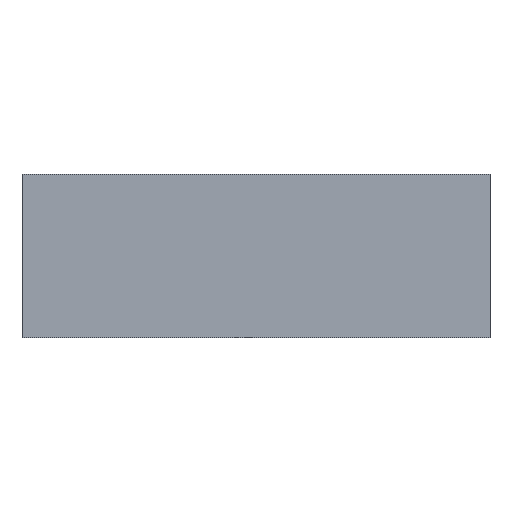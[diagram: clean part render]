
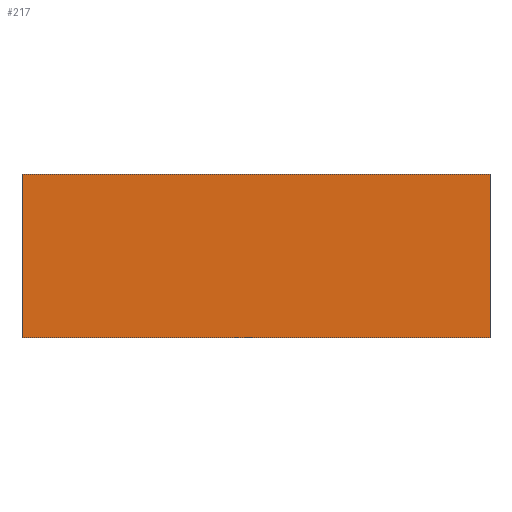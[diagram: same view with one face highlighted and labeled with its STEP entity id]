
A CAD part, front view. The second image highlights one B-rep face of the part: STEP entity #217.
In plain terms, the highlighted planar face has unit normal (0, -1, 0).
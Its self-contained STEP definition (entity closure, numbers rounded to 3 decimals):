
#39 = EDGE_CURVE('',#40,#42,#44,.T.);
#40 = VERTEX_POINT('',#41);
#41 = CARTESIAN_POINT('',(60.6,-20.5,24.376));
#42 = VERTEX_POINT('',#43);
#43 = CARTESIAN_POINT('',(60.6,-20.5,32.376));
#44 = SURFACE_CURVE('',#45,(#49,#61),.PCURVE_S1.);
#45 = LINE('',#46,#47);
#46 = CARTESIAN_POINT('',(60.6,-20.5,24.376));
#47 = VECTOR('',#48,1.);
#48 = DIRECTION('',(0.,0.,1.));
#49 = PCURVE('',#50,#55);
#50 = PLANE('',#51);
#51 = AXIS2_PLACEMENT_3D('',#52,#53,#54);
#52 = CARTESIAN_POINT('',(60.6,-20.5,24.376));
#53 = DIRECTION('',(1.,0.,0.));
#54 = DIRECTION('',(0.,0.,1.));
#55 = DEFINITIONAL_REPRESENTATION('',(#56),#60);
#56 = LINE('',#57,#58);
#57 = CARTESIAN_POINT('',(0.,0.));
#58 = VECTOR('',#59,1.);
#59 = DIRECTION('',(1.,0.));
#60 = ( GEOMETRIC_REPRESENTATION_CONTEXT(2) 
PARAMETRIC_REPRESENTATION_CONTEXT() REPRESENTATION_CONTEXT('2D SPACE',''
  ) );
#61 = PCURVE('',#62,#67);
#62 = PLANE('',#63);
#63 = AXIS2_PLACEMENT_3D('',#64,#65,#66);
#64 = CARTESIAN_POINT('',(60.6,-20.5,24.376));
#65 = DIRECTION('',(0.,1.,0.));
#66 = DIRECTION('',(0.,-0.,1.));
#67 = DEFINITIONAL_REPRESENTATION('',(#68),#72);
#68 = LINE('',#69,#70);
#69 = CARTESIAN_POINT('',(0.,0.));
#70 = VECTOR('',#71,1.);
#71 = DIRECTION('',(1.,0.));
#72 = ( GEOMETRIC_REPRESENTATION_CONTEXT(2) 
PARAMETRIC_REPRESENTATION_CONTEXT() REPRESENTATION_CONTEXT('2D SPACE',''
  ) );
#90 = PLANE('',#91);
#91 = AXIS2_PLACEMENT_3D('',#92,#93,#94);
#92 = CARTESIAN_POINT('',(60.6,-20.5,24.376));
#93 = DIRECTION('',(0.,0.,1.));
#94 = DIRECTION('',(1.,0.,-0.));
#144 = PLANE('',#145);
#145 = AXIS2_PLACEMENT_3D('',#146,#147,#148);
#146 = CARTESIAN_POINT('',(60.6,-20.5,32.376));
#147 = DIRECTION('',(0.,0.,1.));
#148 = DIRECTION('',(1.,0.,-0.));
#217 = ADVANCED_FACE('',(#218),#62,.F.);
#218 = FACE_BOUND('',#219,.F.);
#219 = EDGE_LOOP('',(#220,#243,#244,#267));
#220 = ORIENTED_EDGE('',*,*,#221,.F.);
#221 = EDGE_CURVE('',#40,#222,#224,.T.);
#222 = VERTEX_POINT('',#223);
#223 = CARTESIAN_POINT('',(63.4,-20.5,24.376));
#224 = SURFACE_CURVE('',#225,(#229,#236),.PCURVE_S1.);
#225 = LINE('',#226,#227);
#226 = CARTESIAN_POINT('',(60.6,-20.5,24.376));
#227 = VECTOR('',#228,1.);
#228 = DIRECTION('',(1.,0.,0.));
#229 = PCURVE('',#62,#230);
#230 = DEFINITIONAL_REPRESENTATION('',(#231),#235);
#231 = LINE('',#232,#233);
#232 = CARTESIAN_POINT('',(0.,0.));
#233 = VECTOR('',#234,1.);
#234 = DIRECTION('',(0.,1.));
#235 = ( GEOMETRIC_REPRESENTATION_CONTEXT(2) 
PARAMETRIC_REPRESENTATION_CONTEXT() REPRESENTATION_CONTEXT('2D SPACE',''
  ) );
#236 = PCURVE('',#90,#237);
#237 = DEFINITIONAL_REPRESENTATION('',(#238),#242);
#238 = LINE('',#239,#240);
#239 = CARTESIAN_POINT('',(0.,0.));
#240 = VECTOR('',#241,1.);
#241 = DIRECTION('',(1.,0.));
#242 = ( GEOMETRIC_REPRESENTATION_CONTEXT(2) 
PARAMETRIC_REPRESENTATION_CONTEXT() REPRESENTATION_CONTEXT('2D SPACE',''
  ) );
#243 = ORIENTED_EDGE('',*,*,#39,.T.);
#244 = ORIENTED_EDGE('',*,*,#245,.T.);
#245 = EDGE_CURVE('',#42,#246,#248,.T.);
#246 = VERTEX_POINT('',#247);
#247 = CARTESIAN_POINT('',(63.4,-20.5,32.376));
#248 = SURFACE_CURVE('',#249,(#253,#260),.PCURVE_S1.);
#249 = LINE('',#250,#251);
#250 = CARTESIAN_POINT('',(60.6,-20.5,32.376));
#251 = VECTOR('',#252,1.);
#252 = DIRECTION('',(1.,0.,0.));
#253 = PCURVE('',#62,#254);
#254 = DEFINITIONAL_REPRESENTATION('',(#255),#259);
#255 = LINE('',#256,#257);
#256 = CARTESIAN_POINT('',(8.,0.));
#257 = VECTOR('',#258,1.);
#258 = DIRECTION('',(0.,1.));
#259 = ( GEOMETRIC_REPRESENTATION_CONTEXT(2) 
PARAMETRIC_REPRESENTATION_CONTEXT() REPRESENTATION_CONTEXT('2D SPACE',''
  ) );
#260 = PCURVE('',#144,#261);
#261 = DEFINITIONAL_REPRESENTATION('',(#262),#266);
#262 = LINE('',#263,#264);
#263 = CARTESIAN_POINT('',(0.,0.));
#264 = VECTOR('',#265,1.);
#265 = DIRECTION('',(1.,0.));
#266 = ( GEOMETRIC_REPRESENTATION_CONTEXT(2) 
PARAMETRIC_REPRESENTATION_CONTEXT() REPRESENTATION_CONTEXT('2D SPACE',''
  ) );
#267 = ORIENTED_EDGE('',*,*,#268,.F.);
#268 = EDGE_CURVE('',#222,#246,#269,.T.);
#269 = SURFACE_CURVE('',#270,(#274,#281),.PCURVE_S1.);
#270 = LINE('',#271,#272);
#271 = CARTESIAN_POINT('',(63.4,-20.5,24.376));
#272 = VECTOR('',#273,1.);
#273 = DIRECTION('',(0.,0.,1.));
#274 = PCURVE('',#62,#275);
#275 = DEFINITIONAL_REPRESENTATION('',(#276),#280);
#276 = LINE('',#277,#278);
#277 = CARTESIAN_POINT('',(0.,2.8));
#278 = VECTOR('',#279,1.);
#279 = DIRECTION('',(1.,0.));
#280 = ( GEOMETRIC_REPRESENTATION_CONTEXT(2) 
PARAMETRIC_REPRESENTATION_CONTEXT() REPRESENTATION_CONTEXT('2D SPACE',''
  ) );
#281 = PCURVE('',#282,#287);
#282 = PLANE('',#283);
#283 = AXIS2_PLACEMENT_3D('',#284,#285,#286);
#284 = CARTESIAN_POINT('',(63.4,-20.5,24.376));
#285 = DIRECTION('',(1.,0.,0.));
#286 = DIRECTION('',(0.,0.,1.));
#287 = DEFINITIONAL_REPRESENTATION('',(#288),#292);
#288 = LINE('',#289,#290);
#289 = CARTESIAN_POINT('',(0.,0.));
#290 = VECTOR('',#291,1.);
#291 = DIRECTION('',(1.,0.));
#292 = ( GEOMETRIC_REPRESENTATION_CONTEXT(2) 
PARAMETRIC_REPRESENTATION_CONTEXT() REPRESENTATION_CONTEXT('2D SPACE',''
  ) );
